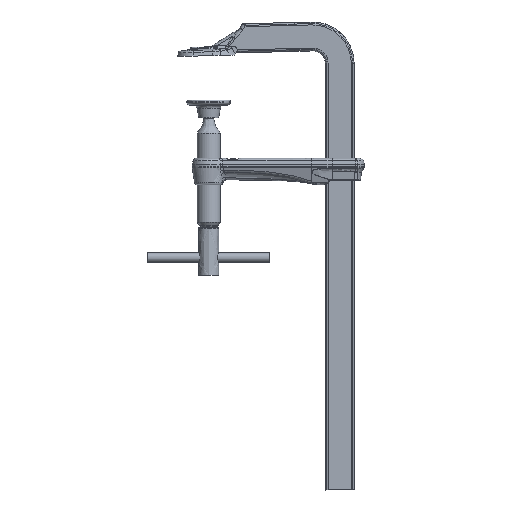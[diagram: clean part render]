
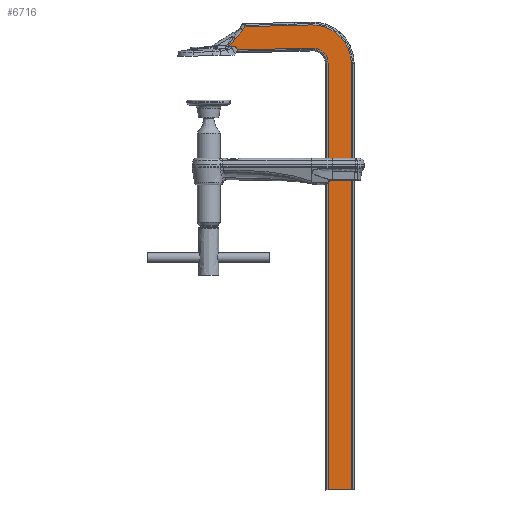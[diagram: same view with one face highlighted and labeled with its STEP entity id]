
A CAD part, front view. The second image highlights one B-rep face of the part: STEP entity #6716.
In plain terms, the highlighted free-form (B-spline) face has degree [1, 1] with [2, 2] control points.
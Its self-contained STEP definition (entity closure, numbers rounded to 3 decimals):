
#5773=CARTESIAN_POINT('',(-48.269,-2.956,7.786));
#5774=VERTEX_POINT('',#5773);
#5780=CARTESIAN_POINT('',(-50.146,-2.956,7.737));
#5781=VERTEX_POINT('',#5780);
#5782=CARTESIAN_POINT('',(-48.269,-2.956,7.786));
#5783=CARTESIAN_POINT('',(-50.146,-2.956,7.737));
#5784=B_SPLINE_CURVE_WITH_KNOTS('',1,(#5782,#5783),.UNSPECIFIED.,.F.,.U.,(2,2),(0.498,0.564),.UNSPECIFIED.);
#5785=EDGE_CURVE('',#5774,#5781,#5784,.T.);
#5809=CARTESIAN_POINT('',(-42.063,-2.956,18.535));
#5810=VERTEX_POINT('',#5809);
#5817=CARTESIAN_POINT('',(-43.235,-2.956,16.376));
#5818=VERTEX_POINT('',#5817);
#5819=CARTESIAN_POINT('',(-42.063,-2.956,18.535));
#5820=CARTESIAN_POINT('',(-43.235,-2.956,16.376));
#5821=B_SPLINE_CURVE_WITH_KNOTS('',1,(#5819,#5820),.UNSPECIFIED.,.F.,.U.,(2,2),(0.109,1.),.UNSPECIFIED.);
#5822=EDGE_CURVE('',#5810,#5818,#5821,.T.);
#5908=CARTESIAN_POINT('',(-47.112,-2.956,11.691));
#5909=VERTEX_POINT('',#5908);
#5910=CARTESIAN_POINT('',(-43.235,-2.956,16.376));
#5911=CARTESIAN_POINT('',(-43.255,-2.956,16.339));
#5912=CARTESIAN_POINT('',(-43.295,-2.956,16.268));
#5913=CARTESIAN_POINT('',(-43.346,-2.956,16.181));
#5914=CARTESIAN_POINT('',(-43.427,-2.956,16.049));
#5915=CARTESIAN_POINT('',(-43.547,-2.956,15.866));
#5916=CARTESIAN_POINT('',(-43.69,-2.956,15.666));
#5917=CARTESIAN_POINT('',(-43.83,-2.956,15.482));
#5918=CARTESIAN_POINT('',(-43.966,-2.956,15.312));
#5919=CARTESIAN_POINT('',(-44.097,-2.956,15.154));
#5920=CARTESIAN_POINT('',(-44.248,-2.956,14.979));
#5921=CARTESIAN_POINT('',(-44.419,-2.956,14.786));
#5922=CARTESIAN_POINT('',(-44.583,-2.956,14.605));
#5923=CARTESIAN_POINT('',(-44.769,-2.956,14.404));
#5924=CARTESIAN_POINT('',(-44.978,-2.956,14.18));
#5925=CARTESIAN_POINT('',(-45.175,-2.956,13.969));
#5926=CARTESIAN_POINT('',(-45.397,-2.956,13.732));
#5927=CARTESIAN_POINT('',(-45.644,-2.956,13.466));
#5928=CARTESIAN_POINT('',(-45.858,-2.956,13.23));
#5929=CARTESIAN_POINT('',(-46.071,-2.956,12.993));
#5930=CARTESIAN_POINT('',(-46.308,-2.956,12.719));
#5931=CARTESIAN_POINT('',(-46.555,-2.956,12.423));
#5932=CARTESIAN_POINT('',(-46.903,-2.956,11.985));
#5933=CARTESIAN_POINT('',(-47.112,-2.956,11.691));
#5934=B_SPLINE_CURVE_WITH_KNOTS('',2,(#5910,#5911,#5912,#5913,#5914,#5915,#5916,#5917,#5918,#5919,#5920,#5921,#5922,#5923,#5924,#5925,#5926,#5927,#5928,#5929,#5930,#5931,#5932,#5933),.UNSPECIFIED.,.F.,.U.,(3,1,1,1,1,1,1,1,1,1,1,1,1,1,1,1,1,1,1,1,1,1,3),(0.,0.014,0.027,0.047,0.078,0.119,0.158,0.195,0.23,0.262,0.306,0.347,0.385,0.437,0.486,0.532,0.593,0.651,0.697,0.755,0.816,0.882,1.),.UNSPECIFIED.);
#5935=EDGE_CURVE('',#5818,#5909,#5934,.T.);
#5973=CARTESIAN_POINT('',(-49.951,-2.956,7.953));
#5974=VERTEX_POINT('',#5973);
#5975=CARTESIAN_POINT('',(-47.112,-2.956,11.691));
#5976=CARTESIAN_POINT('',(-47.513,-2.956,11.125));
#5977=CARTESIAN_POINT('',(-48.19,-2.956,10.203));
#5978=CARTESIAN_POINT('',(-48.692,-2.956,9.536));
#5979=CARTESIAN_POINT('',(-49.103,-2.956,9.005));
#5980=CARTESIAN_POINT('',(-49.435,-2.956,8.586));
#5981=CARTESIAN_POINT('',(-49.769,-2.956,8.172));
#5982=CARTESIAN_POINT('',(-49.951,-2.956,7.953));
#5983=B_SPLINE_CURVE_WITH_KNOTS('',2,(#5975,#5976,#5977,#5978,#5979,#5980,#5981,#5982),.UNSPECIFIED.,.F.,.U.,(3,1,1,1,1,1,3),(0.,0.287,0.473,0.632,0.751,0.853,0.971),.UNSPECIFIED.);
#5984=EDGE_CURVE('',#5909,#5974,#5983,.T.);
#6055=CARTESIAN_POINT('',(-49.951,-2.956,7.953));
#6056=CARTESIAN_POINT('',(-50.044,-2.956,7.841));
#6057=CARTESIAN_POINT('',(-50.146,-2.956,7.737));
#6058=B_SPLINE_CURVE_WITH_KNOTS('',2,(#6055,#6056,#6057),.UNSPECIFIED.,.F.,.U.,(3,3),(0.,0.183),.UNSPECIFIED.);
#6059=EDGE_CURVE('',#5974,#5781,#6058,.T.);
#6637=CARTESIAN_POINT('',(20.964,-2.956,-236.675));
#6638=CARTESIAN_POINT('',(-45.687,-2.956,-238.421));
#6639=CARTESIAN_POINT('',(14.076,-2.956,26.36));
#6640=CARTESIAN_POINT('',(-52.575,-2.956,24.615));
#6641=B_SPLINE_SURFACE_WITH_KNOTS('',1,1,((#6637,#6638),(#6639,#6640)),.PLANE_SURF.,.F.,.F.,.U.,(2,2),(2,2),(-0.222,1.),(0.,1.),.UNSPECIFIED.);
#6642=CARTESIAN_POINT('',(-40.929,-2.956,17.92));
#6643=VERTEX_POINT('',#6642);
#6644=CARTESIAN_POINT('',(-40.929,-2.956,17.92));
#6645=CARTESIAN_POINT('',(-42.063,-2.956,18.535));
#6646=B_SPLINE_CURVE_WITH_KNOTS('',1,(#6644,#6645),.POLYLINE_FORM.,.F.,.U.,(2,2),(0.518,1.),.UNSPECIFIED.);
#6647=EDGE_CURVE('',#6643,#5810,#6646,.T.);
#6648=ORIENTED_EDGE('',*,*,#6647,.T.);
#6649=ORIENTED_EDGE('',*,*,#5822,.T.);
#6650=ORIENTED_EDGE('',*,*,#5935,.T.);
#6651=ORIENTED_EDGE('',*,*,#5984,.T.);
#6652=ORIENTED_EDGE('',*,*,#6059,.T.);
#6653=ORIENTED_EDGE('',*,*,#5785,.F.);
#6654=CARTESIAN_POINT('',(-46.218,-2.956,5.863));
#6655=VERTEX_POINT('',#6654);
#6656=CARTESIAN_POINT('',(-46.218,-2.956,5.863));
#6657=CARTESIAN_POINT('',(-46.238,-2.956,6.386));
#6658=CARTESIAN_POINT('',(-47.114,-2.956,7.817));
#6659=CARTESIAN_POINT('',(-48.269,-2.956,7.786));
#6660=(BOUNDED_CURVE()B_SPLINE_CURVE(2,(#6656,#6657,#6658,#6659),.CIRCULAR_ARC.,.F.,.U.)B_SPLINE_CURVE_WITH_KNOTS((3,1,3),(0.273,0.5,1.),.UNSPECIFIED.)CURVE()GEOMETRIC_REPRESENTATION_ITEM()RATIONAL_B_SPLINE_CURVE((0.801,0.75,0.75,1.))REPRESENTATION_ITEM(''));
#6661=EDGE_CURVE('',#6655,#5774,#6660,.T.);
#6662=ORIENTED_EDGE('',*,*,#6661,.F.);
#6663=CARTESIAN_POINT('',(-7.458,-2.956,6.878));
#6664=VERTEX_POINT('',#6663);
#6665=CARTESIAN_POINT('',(-7.458,-2.956,6.878));
#6666=CARTESIAN_POINT('',(-46.218,-2.956,5.863));
#6667=B_SPLINE_CURVE_WITH_KNOTS('',1,(#6665,#6666),.POLYLINE_FORM.,.F.,.U.,(2,2),(0.,1.),.UNSPECIFIED.);
#6668=EDGE_CURVE('',#6664,#6655,#6667,.T.);
#6669=ORIENTED_EDGE('',*,*,#6668,.F.);
#6670=CARTESIAN_POINT('',(0.673,-2.956,-1.042));
#6671=VERTEX_POINT('',#6670);
#6672=CARTESIAN_POINT('',(-7.458,-2.956,6.878));
#6673=CARTESIAN_POINT('',(0.673,-2.956,7.091));
#6674=CARTESIAN_POINT('',(0.673,-2.956,-1.042));
#6675=(BOUNDED_CURVE()B_SPLINE_CURVE(2,(#6672,#6673,#6674),.UNSPECIFIED.,.F.,.U.)B_SPLINE_CURVE_WITH_KNOTS((3,3),(0.,1.),.UNSPECIFIED.)CURVE()GEOMETRIC_REPRESENTATION_ITEM()RATIONAL_B_SPLINE_CURVE((1.,0.698,1.))REPRESENTATION_ITEM(''));
#6676=EDGE_CURVE('',#6664,#6671,#6675,.T.);
#6677=ORIENTED_EDGE('',*,*,#6676,.T.);
#6678=CARTESIAN_POINT('',(0.673,-2.956,-220.942));
#6679=VERTEX_POINT('',#6678);
#6680=CARTESIAN_POINT('',(0.673,-2.956,-1.042));
#6681=CARTESIAN_POINT('',(0.673,-2.956,-220.942));
#6682=B_SPLINE_CURVE_WITH_KNOTS('',1,(#6680,#6681),.POLYLINE_FORM.,.F.,.U.,(2,2),(0.,0.987),.UNSPECIFIED.);
#6683=EDGE_CURVE('',#6671,#6679,#6682,.T.);
#6684=ORIENTED_EDGE('',*,*,#6683,.T.);
#6685=CARTESIAN_POINT('',(12.587,-2.956,-220.942));
#6686=VERTEX_POINT('',#6685);
#6687=CARTESIAN_POINT('',(12.587,-2.956,-220.942));
#6688=CARTESIAN_POINT('',(0.673,-2.956,-220.942));
#6689=B_SPLINE_CURVE_WITH_KNOTS('',1,(#6687,#6688),.POLYLINE_FORM.,.F.,.U.,(2,2),(0.229,0.771),.UNSPECIFIED.);
#6690=EDGE_CURVE('',#6686,#6679,#6689,.T.);
#6691=ORIENTED_EDGE('',*,*,#6690,.F.);
#6692=CARTESIAN_POINT('',(12.587,-2.956,-1.042));
#6693=VERTEX_POINT('',#6692);
#6694=CARTESIAN_POINT('',(12.587,-2.956,-1.042));
#6695=CARTESIAN_POINT('',(12.587,-2.956,-220.942));
#6696=B_SPLINE_CURVE_WITH_KNOTS('',1,(#6694,#6695),.POLYLINE_FORM.,.F.,.U.,(2,2),(0.,0.987),.UNSPECIFIED.);
#6697=EDGE_CURVE('',#6693,#6686,#6696,.T.);
#6698=ORIENTED_EDGE('',*,*,#6697,.F.);
#6699=CARTESIAN_POINT('',(-7.77,-2.956,18.788));
#6700=VERTEX_POINT('',#6699);
#6701=CARTESIAN_POINT('',(-7.77,-2.956,18.788));
#6702=CARTESIAN_POINT('',(0.597,-2.956,19.007));
#6703=CARTESIAN_POINT('',(6.592,-2.956,13.167));
#6704=CARTESIAN_POINT('',(12.587,-2.956,7.327));
#6705=CARTESIAN_POINT('',(12.587,-2.956,-1.042));
#6706=(BOUNDED_CURVE()B_SPLINE_CURVE(2,(#6701,#6702,#6703,#6704,#6705),.UNSPECIFIED.,.F.,.U.)B_SPLINE_CURVE_WITH_KNOTS((3,2,3),(0.,0.5,1.),.UNSPECIFIED.)CURVE()GEOMETRIC_REPRESENTATION_ITEM()RATIONAL_B_SPLINE_CURVE((1.,0.921,1.,0.921,1.))REPRESENTATION_ITEM(''));
#6707=EDGE_CURVE('',#6700,#6693,#6706,.T.);
#6708=ORIENTED_EDGE('',*,*,#6707,.F.);
#6709=CARTESIAN_POINT('',(-7.77,-2.956,18.788));
#6710=CARTESIAN_POINT('',(-40.929,-2.956,17.92));
#6711=B_SPLINE_CURVE_WITH_KNOTS('',1,(#6709,#6710),.POLYLINE_FORM.,.F.,.U.,(2,2),(0.,1.),.UNSPECIFIED.);
#6712=EDGE_CURVE('',#6700,#6643,#6711,.T.);
#6713=ORIENTED_EDGE('',*,*,#6712,.T.);
#6714=EDGE_LOOP('',(#6648,#6649,#6650,#6651,#6652,#6653,#6662,#6669,#6677,#6684,#6691,#6698,#6708,#6713));
#6715=FACE_OUTER_BOUND('',#6714,.T.);
#6716=ADVANCED_FACE('',(#6715),#6641,.T.);
